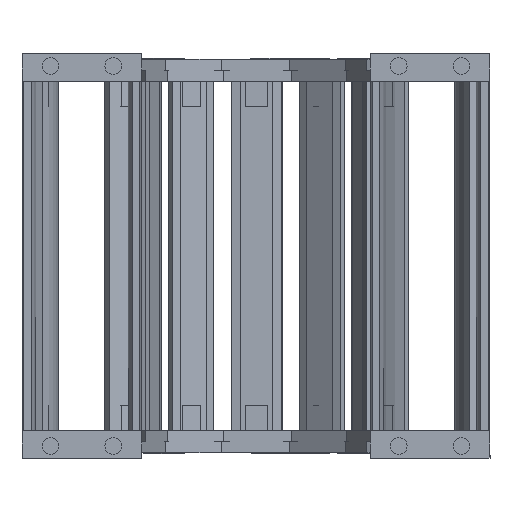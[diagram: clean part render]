
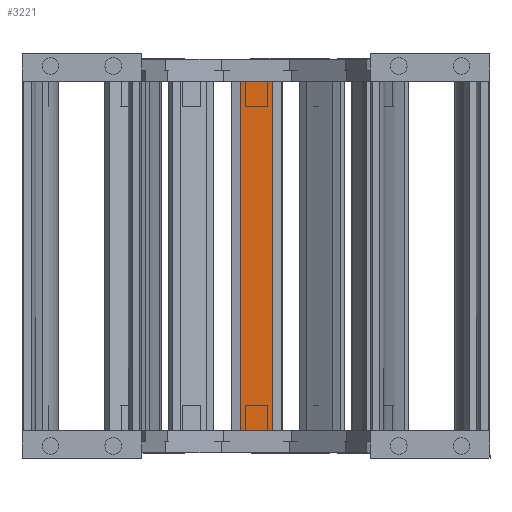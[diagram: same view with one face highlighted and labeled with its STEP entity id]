
A CAD part, left-side view. The second image highlights one B-rep face of the part: STEP entity #3221.
In plain terms, the highlighted planar face has unit normal (-1, 0.005, 0) as drawn and (0, -1, 0) by its records, which use the part's own axes.
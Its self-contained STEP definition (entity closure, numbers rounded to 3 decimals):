
#3054=DIRECTION('',(0.,0.,-1.));
#3055=VECTOR('',#3054,250.7);
#3056=CARTESIAN_POINT('',(-11.5,-82.,37.5));
#3057=LINE('',#3056,#3055);
#3083=DIRECTION('',(1.,0.,0.));
#3084=VECTOR('',#3083,23.);
#3085=CARTESIAN_POINT('',(-11.5,-82.,37.5));
#3086=LINE('',#3085,#3084);
#3140=DIRECTION('',(-1.,0.,0.));
#3141=VECTOR('',#3140,23.);
#3142=CARTESIAN_POINT('',(11.5,-82.,-213.2));
#3143=LINE('',#3142,#3141);
#3168=DIRECTION('',(0.,0.,-1.));
#3169=VECTOR('',#3168,250.7);
#3170=CARTESIAN_POINT('',(11.5,-82.,37.5));
#3171=LINE('',#3170,#3169);
#3188=CARTESIAN_POINT('',(11.5,-82.,-213.2));
#3189=VERTEX_POINT('',#3188);
#3190=CARTESIAN_POINT('',(-11.5,-82.,-213.2));
#3191=VERTEX_POINT('',#3190);
#3200=CARTESIAN_POINT('',(11.5,-82.,37.5));
#3201=VERTEX_POINT('',#3200);
#3204=CARTESIAN_POINT('',(-11.5,-82.,37.5));
#3205=VERTEX_POINT('',#3204);
#3206=CARTESIAN_POINT('',(15.5,-82.,-213.2));
#3207=DIRECTION('',(0.,1.,0.));
#3208=DIRECTION('',(-1.,0.,0.));
#3209=AXIS2_PLACEMENT_3D('',#3206,#3207,#3208);
#3210=PLANE('',#3209);
#3212=ORIENTED_EDGE('',*,*,#3211,.F.);
#3214=ORIENTED_EDGE('',*,*,#3213,.T.);
#3216=ORIENTED_EDGE('',*,*,#3215,.T.);
#3218=ORIENTED_EDGE('',*,*,#3217,.T.);
#3219=EDGE_LOOP('',(#3212,#3214,#3216,#3218));
#3220=FACE_OUTER_BOUND('',#3219,.F.);
#3221=ADVANCED_FACE('',(#3220),#3210,.F.);
#3211=EDGE_CURVE('',#3205,#3191,#3057,.T.);
#3213=EDGE_CURVE('',#3205,#3201,#3086,.T.);
#3215=EDGE_CURVE('',#3201,#3189,#3171,.T.);
#3217=EDGE_CURVE('',#3189,#3191,#3143,.T.);
